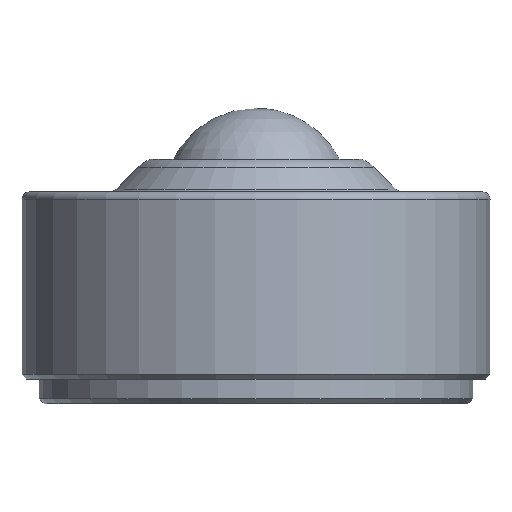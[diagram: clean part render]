
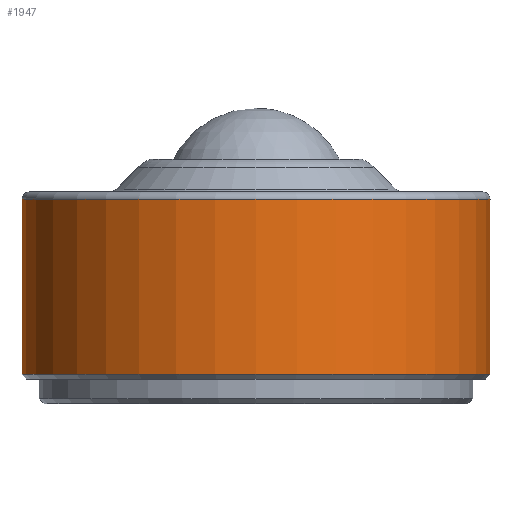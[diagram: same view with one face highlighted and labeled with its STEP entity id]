
A CAD part, front view. The second image highlights one B-rep face of the part: STEP entity #1947.
In plain terms, the highlighted cylindrical face has radius 47.5 mm (diameter 95 mm), a full revolution.
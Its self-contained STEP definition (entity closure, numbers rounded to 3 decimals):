
#38=CYLINDRICAL_SURFACE('',#2123,47.5);
#572=FACE_BOUND('',#887,.T.);
#706=FACE_OUTER_BOUND('',#886,.T.);
#886=EDGE_LOOP('',(#1703));
#887=EDGE_LOOP('',(#1704));
#929=CIRCLE('',#2122,47.5);
#930=CIRCLE('',#2124,47.5);
#1054=VERTEX_POINT('',#3125);
#1055=VERTEX_POINT('',#3128);
#1271=EDGE_CURVE('',#1054,#1054,#929,.T.);
#1272=EDGE_CURVE('',#1055,#1055,#930,.T.);
#1703=ORIENTED_EDGE('',*,*,#1272,.F.);
#1704=ORIENTED_EDGE('',*,*,#1271,.T.);
#1947=ADVANCED_FACE('',(#706,#572),#38,.T.);
#2122=AXIS2_PLACEMENT_3D('',#3126,#2646,#2647);
#2123=AXIS2_PLACEMENT_3D('',#3127,#2648,#2649);
#2124=AXIS2_PLACEMENT_3D('',#3129,#2650,#2651);
#2646=DIRECTION('center_axis',(0.,0.,-1.));
#2647=DIRECTION('ref_axis',(0.,1.,0.));
#2648=DIRECTION('center_axis',(0.,0.,-1.));
#2649=DIRECTION('ref_axis',(0.,1.,0.));
#2650=DIRECTION('center_axis',(0.,0.,-1.));
#2651=DIRECTION('ref_axis',(0.,1.,0.));
#3125=CARTESIAN_POINT('',(0.,47.5,41.5));
#3126=CARTESIAN_POINT('Origin',(0.,0.,41.5));
#3127=CARTESIAN_POINT('Origin',(0.,0.,23.75));
#3128=CARTESIAN_POINT('',(0.,47.5,6.));
#3129=CARTESIAN_POINT('Origin',(0.,0.,6.));
